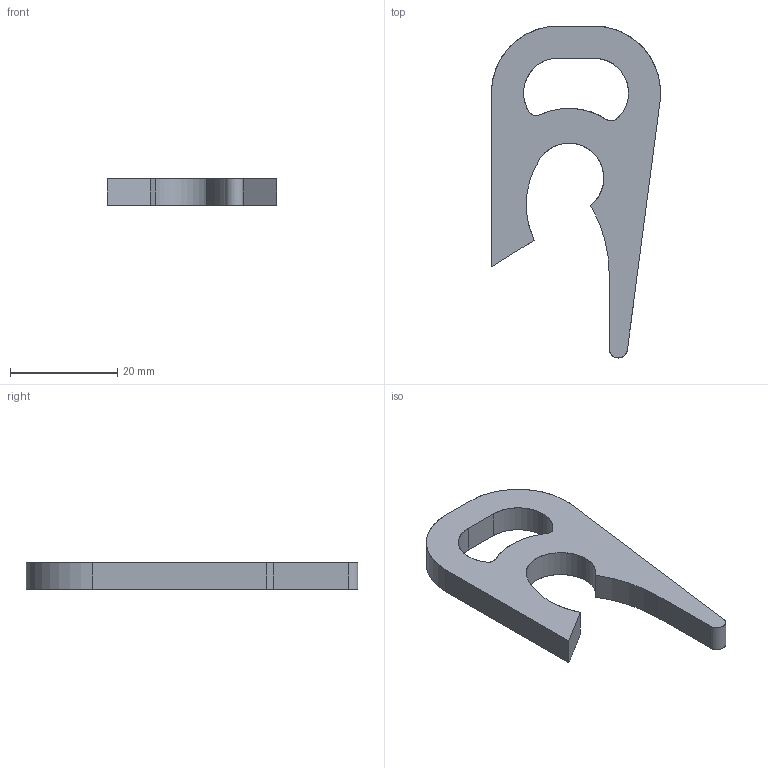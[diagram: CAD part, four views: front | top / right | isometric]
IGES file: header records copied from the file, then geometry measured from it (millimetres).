
Start section: SolidWorks IGES file using analytic representation for surfaces
Global section: file name: E:\Nouveau dossier\tarek\mécaniquee\L3GMCFM\TP0\EX2.IGS; native system: SolidWorks 2013; preprocessor: SolidWorks 2013; author: LENOVO; date: 180916.193210; units: millimetre
Bounding box: 31.6 x 62 x 5 mm (x, y, z)
Surface area: 3049.1 mm2 (no closed solid volume)
Topology: 0 solids, 0 shells, 21 faces, 320 edges, 320 vertices
Faces by surface type: revolution 13, bspline 8
